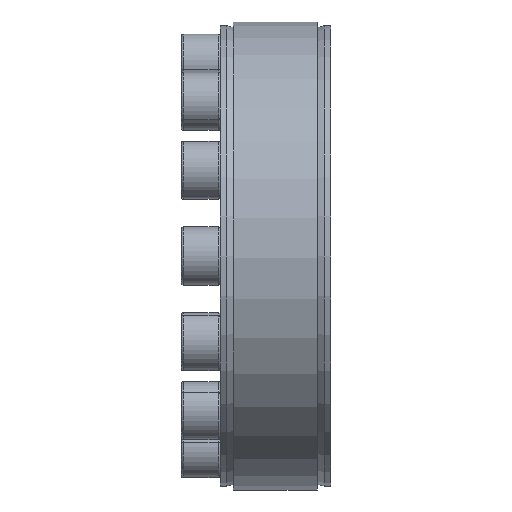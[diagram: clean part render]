
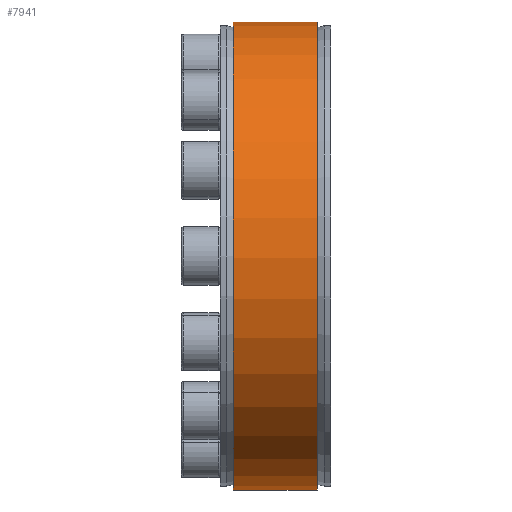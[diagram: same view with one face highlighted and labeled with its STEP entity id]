
A CAD part, front view. The second image highlights one B-rep face of the part: STEP entity #7941.
In plain terms, the highlighted cylindrical face has radius 72.5 mm (diameter 145 mm), a partial arc.
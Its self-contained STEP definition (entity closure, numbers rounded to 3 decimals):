
#6 = EDGE_LOOP ( 'NONE', ( #7056, #3912, #6725, #8539 ) ) ;
#188 = DIRECTION ( 'NONE',  ( 0., 0., 1. ) ) ;
#234 = EDGE_CURVE ( 'NONE', #3471, #2844, #1754, .T. ) ;
#382 = EDGE_CURVE ( 'NONE', #7177, #7911, #9566, .T. ) ;
#388 = CARTESIAN_POINT ( 'NONE',  ( -17.103, 1.5, 72.484 ) ) ;
#1754 = LINE ( 'NONE', #388, #4159 ) ;
#2844 = VERTEX_POINT ( 'NONE', #7384 ) ;
#2947 = DIRECTION ( 'NONE',  ( -1., 0., 0. ) ) ;
#3471 = VERTEX_POINT ( 'NONE', #11047 ) ;
#3719 = CARTESIAN_POINT ( 'NONE',  ( 13., -1.5, 72.484 ) ) ;
#3751 = EDGE_CURVE ( 'NONE', #2844, #7177, #5423, .T. ) ;
#3912 = ORIENTED_EDGE ( 'NONE', *, *, #4786, .T. ) ;
#4159 = VECTOR ( 'NONE', #9258, 1000. ) ;
#4389 = CARTESIAN_POINT ( 'NONE',  ( -13., 0., 0. ) ) ;
#4786 = EDGE_CURVE ( 'NONE', #3471, #7911, #9281, .T. ) ;
#5037 = AXIS2_PLACEMENT_3D ( 'NONE', #4389, #10580, #5284 ) ;
#5148 = CARTESIAN_POINT ( 'NONE',  ( -13., -1.5, 72.484 ) ) ;
#5284 = DIRECTION ( 'NONE',  ( 0., 0., 1. ) ) ;
#5288 = FACE_OUTER_BOUND ( 'NONE', #6, .T. ) ;
#5423 = CIRCLE ( 'NONE', #5037, 72.5 ) ;
#6427 = CARTESIAN_POINT ( 'NONE',  ( -17.103, 0., 0. ) ) ;
#6725 = ORIENTED_EDGE ( 'NONE', *, *, #382, .F. ) ;
#7056 = ORIENTED_EDGE ( 'NONE', *, *, #234, .F. ) ;
#7114 = CARTESIAN_POINT ( 'NONE',  ( -17.103, -1.5, 72.484 ) ) ;
#7177 = VERTEX_POINT ( 'NONE', #5148 ) ;
#7195 = VECTOR ( 'NONE', #9448, 1000. ) ;
#7384 = CARTESIAN_POINT ( 'NONE',  ( -13., 1.5, 72.484 ) ) ;
#7911 = VERTEX_POINT ( 'NONE', #3719 ) ;
#7941 = ADVANCED_FACE ( 'NONE', ( #5288 ), #11509, .T. ) ;
#8228 = DIRECTION ( 'NONE',  ( -1., 0., 0. ) ) ;
#8300 = CARTESIAN_POINT ( 'NONE',  ( 13., 0., 0. ) ) ;
#8539 = ORIENTED_EDGE ( 'NONE', *, *, #3751, .F. ) ;
#9044 = AXIS2_PLACEMENT_3D ( 'NONE', #6427, #8228, #188 ) ;
#9183 = DIRECTION ( 'NONE',  ( 0., 0., 1. ) ) ;
#9258 = DIRECTION ( 'NONE',  ( -1., 0., 0. ) ) ;
#9281 = CIRCLE ( 'NONE', #9487, 72.5 ) ;
#9448 = DIRECTION ( 'NONE',  ( 1., 0., 0. ) ) ;
#9487 = AXIS2_PLACEMENT_3D ( 'NONE', #8300, #2947, #9183 ) ;
#9566 = LINE ( 'NONE', #7114, #7195 ) ;
#10580 = DIRECTION ( 'NONE',  ( -1., 0., 0. ) ) ;
#11047 = CARTESIAN_POINT ( 'NONE',  ( 13., 1.5, 72.484 ) ) ;
#11509 = CYLINDRICAL_SURFACE ( 'NONE', #9044, 72.5 ) ;
